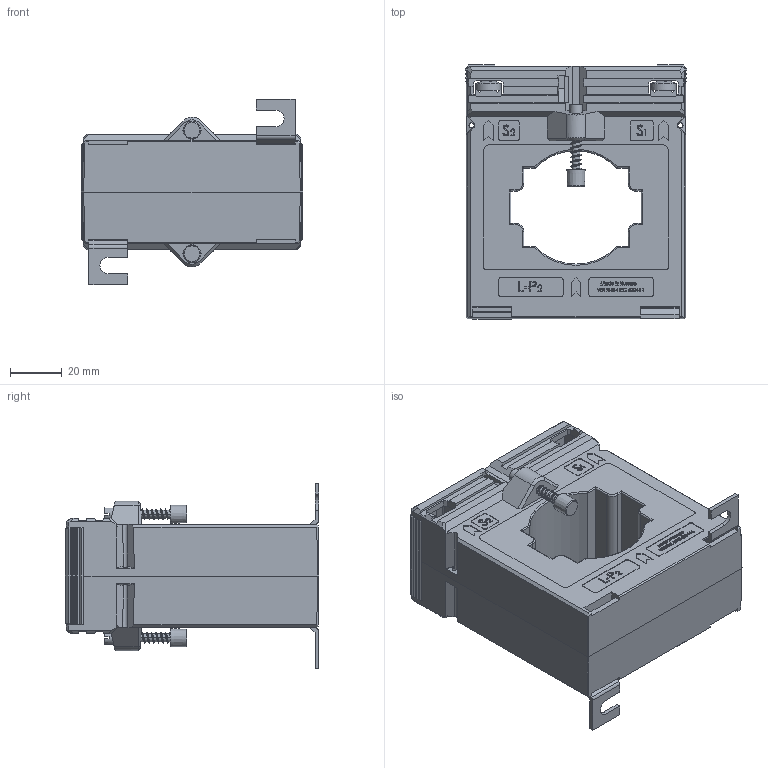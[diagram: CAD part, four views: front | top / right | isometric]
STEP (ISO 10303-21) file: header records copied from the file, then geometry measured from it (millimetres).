
FILE_DESCRIPTION(/* description */ (''),/* implementation_level */ '2;1');
FILE_NAME(/* name */ 'ASK51.4.stp',/* time_stamp */ '2024-03-04T12:49:57+01:00',/* author */ ('JDI'),/* organization */ (''),/* preprocessor_version */ 'ST-DEVELOPER v19.2',/* originating_system */ 'Autodesk Inventor 2023',/* authorisation */ '');
FILE_SCHEMA (('AUTOMOTIVE_DESIGN { 1 0 10303 214 3 1 1 }'));
Products named in the file (1): ASK51.4
Bounding box: 86 x 98.5 x 72 mm (x, y, z)
Volume: 255131.9 mm3; surface area: 49625.9 mm2
Topology: 1 solids, 1 shells, 1807 faces, 4824 edges, 3111 vertices
Faces by surface type: plane 1252, bspline 318, cylinder 168, cone 45, torus 16, sphere 8
Full cylindrical faces by diameter (mm): 2.95 x2, 3 x26, 3.8 x4, 4 x12, 4.1 x2, 5 x2, 10 x4
Entity records: 79499 total; most frequent: CARTESIAN_POINT 34943, ORIENTED_EDGE 9648, DIRECTION 7429, EDGE_CURVE 4824, LINE 3571, VECTOR 3571, VERTEX_POINT 3111, EDGE_LOOP 1965
